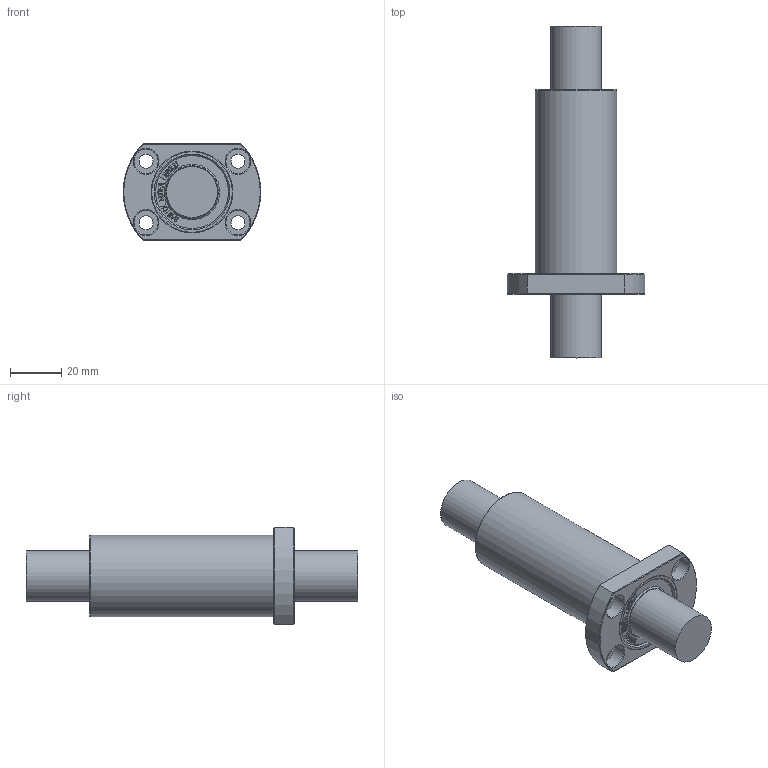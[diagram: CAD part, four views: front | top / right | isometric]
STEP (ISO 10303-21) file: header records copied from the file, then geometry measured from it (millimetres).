
FILE_DESCRIPTION(/* description */ (''),/* implementation_level */ '2;1');
FILE_NAME(/* name */ 'W:\(01) 2024년 홈페이지 CAD파일 최신화\LMH_L\IPT\LMH20LUU.stp',/* time_stamp */ '2025-01-23T10:14:53+09:00',/* author */ ('서우현'),/* organization */ (''),/* preprocessor_version */ 'ST-DEVELOPER v17.2',/* originating_system */ 'Autodesk Inventor 2019',/* authorisation */ '');
FILE_SCHEMA (('AUTOMOTIVE_DESIGN { 1 0 10303 214 3 1 1 }'));
Length unit declared in the file: millimetre
Products named in the file (1): LM5
Bounding box: 53.8 x 130 x 38 mm (x, y, z)
Volume: 86209 mm3; surface area: 16167.6 mm2
Topology: 1 solids, 1 shells, 860 faces, 2414 edges, 1612 vertices
Faces by surface type: bspline 592, plane 234, cone 16, cylinder 16, torus 2
Full cylindrical faces by diameter (mm): 5.5 x4, 9.5 x4, 20 x2, 28.5 x2, 32 x2
Entity records: 29242 total; most frequent: CARTESIAN_POINT 10231, ORIENTED_EDGE 4828, EDGE_CURVE 2414, DIRECTION 1842, VERTEX_POINT 1612, B_SPLINE_CURVE_WITH_KNOTS 1184, LINE 1140, VECTOR 1140
